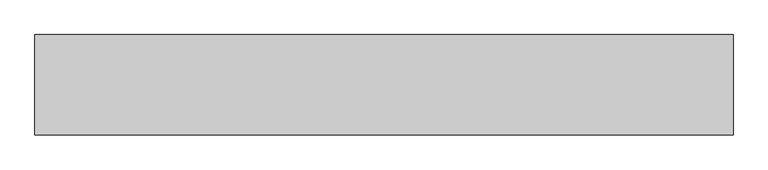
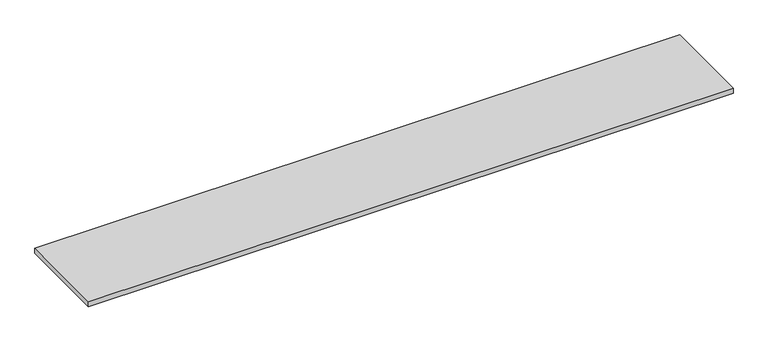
"""IFC4 building model written with IfcOpenShell, lengths in millimetres: proxy geometry, FOUNDATION^OPEN OFFICE 1_12.94x89.94-TACKBOARD."""

from ifc_helpers import new_model, si_unit, origin, origin_with_axes, place, context, project, spatial, polyline, outline, extrude, source, transform, mapped, element, save


def generic_models_81629c69(model_context):
    return source(origin(), model_context, "Body", "SweptSolid", [
        extrude(outline(polyline([(2284.4125, 328.6125), (2284.4125, 0.0), (0.0, 0.0), (0.0, 328.6125), (2284.4125, 328.6125)])), origin_with_axes(), (0.0, 0.0, 1.0), 19.05),
    ])


if __name__ == "__main__":
    model = new_model("IFC4")
    model_context = context("Model", 3, world=origin())
    ifc_project = project(units=[si_unit("LENGTHUNIT", "METRE", prefix="MILLI")], contexts=[model_context])
    site = spatial("IfcSite", under=ifc_project)
    building = spatial("IfcBuilding", under=site)
    placement = place(None, origin())
    generic_models_shape = generic_models_81629c69(model_context)
    element("IfcBuildingElementProxy", 1, Name="FOUNDATION^OPEN OFFICE 1_12.94x89.94-TACKBOARD", ObjectType="FOUNDATION^OPEN OFFICE 1_12.94x89.94-TACKBOARD", at=placement, inside=building, context=model_context, shape_type="MappedRepresentation", body=[
        mapped(generic_models_shape, transform((0.0, 0.0, 0.0), x_axis=(1.0, 0.0, 0.0), y_axis=(0.0, 1.0, 0.0), z_axis=(0.0, 0.0, 1.0))),
    ])
    save(model, "model.ifc")
